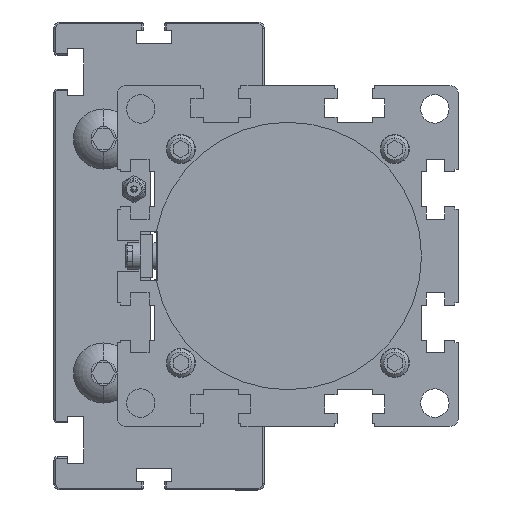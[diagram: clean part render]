
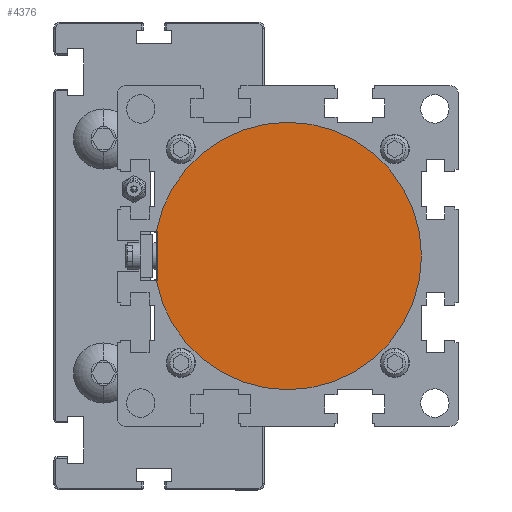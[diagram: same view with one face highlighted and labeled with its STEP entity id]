
A CAD part, left-side view. The second image highlights one B-rep face of the part: STEP entity #4376.
In plain terms, the highlighted planar face has unit normal (-1, 0, 0) as drawn and (1, 0, 0) by its records, which use the part's own axes.
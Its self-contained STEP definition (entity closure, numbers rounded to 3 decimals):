
#73 = EDGE_CURVE ( 'NONE', #13195, #24596, #24630, .T. ) ;
#540 = ORIENTED_EDGE ( 'NONE', *, *, #73, .T. ) ;
#1800 = AXIS2_PLACEMENT_3D ( 'NONE', #26327, #10750, #28966 ) ;
#2684 = EDGE_CURVE ( 'NONE', #8723, #12885, #33652, .T. ) ;
#3281 = PLANE ( 'NONE',  #24537 ) ;
#3884 = CARTESIAN_POINT ( 'NONE',  ( 1., 0., 0. ) ) ;
#4376 = ADVANCED_FACE ( 'NONE', ( #22048 ), #3281, .T. ) ;
#4424 = CIRCLE ( 'NONE', #10074, 40. ) ;
#5676 = ORIENTED_EDGE ( 'NONE', *, *, #25493, .F. ) ;
#6509 = DIRECTION ( 'NONE',  ( 0., 0., -1. ) ) ;
#7372 = CARTESIAN_POINT ( 'NONE',  ( 1., -0.331, 7.25 ) ) ;
#7582 = CIRCLE ( 'NONE', #13581, 40. ) ;
#8165 = DIRECTION ( 'NONE',  ( 1., 0., 0. ) ) ;
#8382 = CARTESIAN_POINT ( 'NONE',  ( 1., 39.337, 7.25 ) ) ;
#8723 = VERTEX_POINT ( 'NONE', #8382 ) ;
#8843 = ORIENTED_EDGE ( 'NONE', *, *, #17387, .T. ) ;
#10074 = AXIS2_PLACEMENT_3D ( 'NONE', #3884, #22121, #6509 ) ;
#10750 = DIRECTION ( 'NONE',  ( 1., 0., 0. ) ) ;
#11882 = ORIENTED_EDGE ( 'NONE', *, *, #15279, .T. ) ;
#12464 = EDGE_LOOP ( 'NONE', ( #17710, #17789, #8843, #11882, #540, #5676 ) ) ;
#12885 = VERTEX_POINT ( 'NONE', #33814 ) ;
#13195 = VERTEX_POINT ( 'NONE', #32505 ) ;
#13428 = CARTESIAN_POINT ( 'NONE',  ( 1., 38.9, -87.778 ) ) ;
#13581 = AXIS2_PLACEMENT_3D ( 'NONE', #23784, #8165, #26386 ) ;
#13737 = DIRECTION ( 'NONE',  ( 0., 0., -1. ) ) ;
#15279 = EDGE_CURVE ( 'NONE', #17183, #13195, #4424, .T. ) ;
#17122 = CARTESIAN_POINT ( 'NONE',  ( 1., -0.331, -7.25 ) ) ;
#17183 = VERTEX_POINT ( 'NONE', #17620 ) ;
#17387 = EDGE_CURVE ( 'NONE', #22939, #17183, #7582, .T. ) ;
#17620 = CARTESIAN_POINT ( 'NONE',  ( 1., 0., -40. ) ) ;
#17691 = VECTOR ( 'NONE', #32733, 1000. ) ;
#17710 = ORIENTED_EDGE ( 'NONE', *, *, #2684, .F. ) ;
#17789 = ORIENTED_EDGE ( 'NONE', *, *, #23940, .T. ) ;
#18861 = CARTESIAN_POINT ( 'NONE',  ( 1., 0., 40. ) ) ;
#22048 = FACE_OUTER_BOUND ( 'NONE', #12464, .T. ) ;
#22121 = DIRECTION ( 'NONE',  ( 1., 0., 0. ) ) ;
#22939 = VERTEX_POINT ( 'NONE', #18861 ) ;
#23784 = CARTESIAN_POINT ( 'NONE',  ( 1., 0., 0. ) ) ;
#23940 = EDGE_CURVE ( 'NONE', #8723, #22939, #33440, .T. ) ;
#24115 = CARTESIAN_POINT ( 'NONE',  ( 1., -0.331, -87.778 ) ) ;
#24321 = VECTOR ( 'NONE', #26410, 1000. ) ;
#24537 = AXIS2_PLACEMENT_3D ( 'NONE', #24115, #29350, #13737 ) ;
#24596 = VERTEX_POINT ( 'NONE', #31866 ) ;
#24630 = LINE ( 'NONE', #17122, #17691 ) ;
#25159 = LINE ( 'NONE', #13428, #24321 ) ;
#25493 = EDGE_CURVE ( 'NONE', #12885, #24596, #25159, .T. ) ;
#26327 = CARTESIAN_POINT ( 'NONE',  ( 1., 0., 0. ) ) ;
#26386 = DIRECTION ( 'NONE',  ( 0., 0., -1. ) ) ;
#26410 = DIRECTION ( 'NONE',  ( 0., 0., -1. ) ) ;
#26672 = VECTOR ( 'NONE', #28330, 1000. ) ;
#28330 = DIRECTION ( 'NONE',  ( 0., -1., 0. ) ) ;
#28966 = DIRECTION ( 'NONE',  ( 0., 0., -1. ) ) ;
#29350 = DIRECTION ( 'NONE',  ( 1., 0., 0. ) ) ;
#31866 = CARTESIAN_POINT ( 'NONE',  ( 1., 38.9, -7.25 ) ) ;
#32505 = CARTESIAN_POINT ( 'NONE',  ( 1., 39.337, -7.25 ) ) ;
#32733 = DIRECTION ( 'NONE',  ( 0., -1., 0. ) ) ;
#33440 = CIRCLE ( 'NONE', #1800, 40. ) ;
#33652 = LINE ( 'NONE', #7372, #26672 ) ;
#33814 = CARTESIAN_POINT ( 'NONE',  ( 1., 38.9, 7.25 ) ) ;
